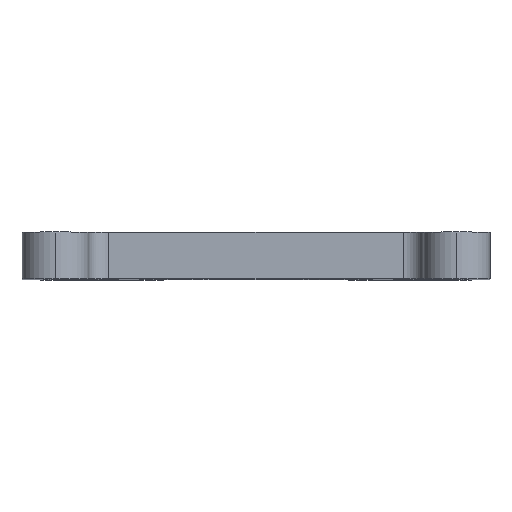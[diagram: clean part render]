
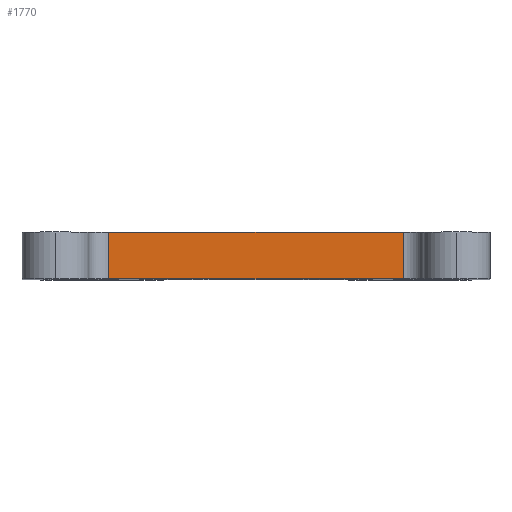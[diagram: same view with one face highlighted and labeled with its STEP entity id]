
A CAD part, top view. The second image highlights one B-rep face of the part: STEP entity #1770.
In plain terms, the highlighted planar face has unit normal (0, 0, 1).
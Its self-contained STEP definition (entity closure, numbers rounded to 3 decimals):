
#1431 = EDGE_CURVE ( 'NONE', #2201, #2163, #1853, .T. ) ;
#1435 = EDGE_CURVE ( 'NONE', #2195, #2201, #1861, .T. ) ;
#1444 = EDGE_CURVE ( 'NONE', #2165, #2163, #1874, .T. ) ;
#1453 = EDGE_CURVE ( 'NONE', #2165, #2195, #1832, .T. ) ;
#1770 = ADVANCED_FACE ( 'NONE', ( #3084 ), #3478, .F. ) ;
#1800 = VECTOR ( 'NONE', #4521, 1000. ) ;
#1807 = VECTOR ( 'NONE', #4539, 1000. ) ;
#1832 = LINE ( 'NONE', #4534, #1807 ) ;
#1848 = VECTOR ( 'NONE', #4503, 1000. ) ;
#1853 = LINE ( 'NONE', #4494, #1859 ) ;
#1859 = VECTOR ( 'NONE', #4496, 1000. ) ;
#1861 = LINE ( 'NONE', #4495, #1848 ) ;
#1874 = LINE ( 'NONE', #4520, #1800 ) ;
#2163 = VERTEX_POINT ( 'NONE', #2297 ) ;
#2165 = VERTEX_POINT ( 'NONE', #2298 ) ;
#2195 = VERTEX_POINT ( 'NONE', #2316 ) ;
#2201 = VERTEX_POINT ( 'NONE', #2321 ) ;
#2297 = CARTESIAN_POINT ( 'NONE',  ( 22., 7., 38.75 ) ) ;
#2298 = CARTESIAN_POINT ( 'NONE',  ( -22., 7., 38.75 ) ) ;
#2316 = CARTESIAN_POINT ( 'NONE',  ( -22., 0., 38.75 ) ) ;
#2321 = CARTESIAN_POINT ( 'NONE',  ( 22., 0., 38.75 ) ) ;
#3008 = ORIENTED_EDGE ( 'NONE', *, *, #1444, .F. ) ;
#3011 = ORIENTED_EDGE ( 'NONE', *, *, #1431, .T. ) ;
#3012 = ORIENTED_EDGE ( 'NONE', *, *, #1435, .T. ) ;
#3084 = FACE_OUTER_BOUND ( 'NONE', #4660, .T. ) ;
#3476 = CARTESIAN_POINT ( 'NONE',  ( -25., 7., 38.75 ) ) ;
#3478 = PLANE ( 'NONE',  #4982 ) ;
#3481 = DIRECTION ( 'NONE',  ( 0., 0., -1. ) ) ;
#3482 = DIRECTION ( 'NONE',  ( -1., 0., 0. ) ) ;
#3845 = ORIENTED_EDGE ( 'NONE', *, *, #1453, .T. ) ;
#4494 = CARTESIAN_POINT ( 'NONE',  ( 22., 7., 38.75 ) ) ;
#4495 = CARTESIAN_POINT ( 'NONE',  ( -25., 0., 38.75 ) ) ;
#4496 = DIRECTION ( 'NONE',  ( 0., 1., 0. ) ) ;
#4503 = DIRECTION ( 'NONE',  ( 1., 0., 0. ) ) ;
#4520 = CARTESIAN_POINT ( 'NONE',  ( -25., 7., 38.75 ) ) ;
#4521 = DIRECTION ( 'NONE',  ( 1., 0., 0. ) ) ;
#4534 = CARTESIAN_POINT ( 'NONE',  ( -22., 0., 38.75 ) ) ;
#4539 = DIRECTION ( 'NONE',  ( 0., -1., 0. ) ) ;
#4660 = EDGE_LOOP ( 'NONE', ( #3012, #3011, #3008, #3845 ) ) ;
#4982 = AXIS2_PLACEMENT_3D ( 'NONE', #3476, #3481, #3482 ) ;
